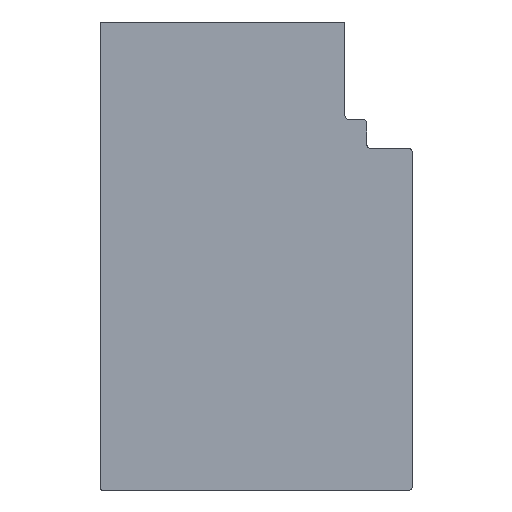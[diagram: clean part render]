
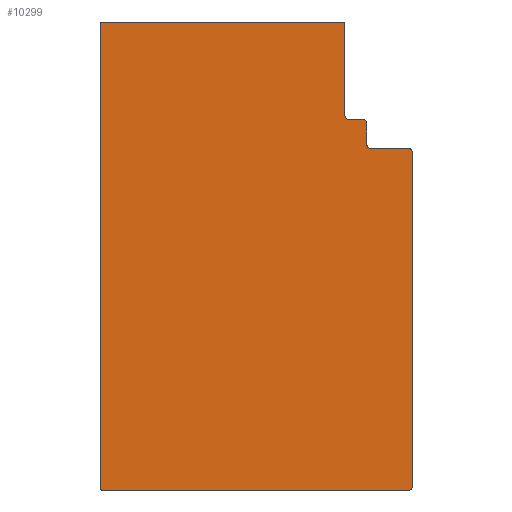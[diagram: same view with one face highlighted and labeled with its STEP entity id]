
A CAD part, front view. The second image highlights one B-rep face of the part: STEP entity #10299.
In plain terms, the highlighted planar face has unit normal (0, -1, 0).
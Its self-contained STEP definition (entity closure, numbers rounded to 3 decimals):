
#90 = DIRECTION ( 'NONE',  ( 0., 0., -1. ) ) ;
#93 = ORIENTED_EDGE ( 'NONE', *, *, #938, .F. ) ;
#104 = ORIENTED_EDGE ( 'NONE', *, *, #9955, .F. ) ;
#287 = VERTEX_POINT ( 'NONE', #2636 ) ;
#438 = DIRECTION ( 'NONE',  ( 0., -1., 0. ) ) ;
#526 = VECTOR ( 'NONE', #1134, 1000. ) ;
#554 = DIRECTION ( 'NONE',  ( 0., -1., 0. ) ) ;
#644 = VERTEX_POINT ( 'NONE', #746 ) ;
#692 = CARTESIAN_POINT ( 'NONE',  ( 53.167, -3.5, 49.423 ) ) ;
#737 = CIRCLE ( 'NONE', #1744, 1. ) ;
#746 = CARTESIAN_POINT ( 'NONE',  ( 43., -3.5, 63.087 ) ) ;
#767 = EDGE_CURVE ( 'NONE', #8657, #2614, #5714, .T. ) ;
#768 = DIRECTION ( 'NONE',  ( 0., 0., -1. ) ) ;
#797 = LINE ( 'NONE', #3264, #8101 ) ;
#823 = EDGE_CURVE ( 'NONE', #7993, #8935, #4935, .T. ) ;
#938 = EDGE_CURVE ( 'NONE', #287, #7298, #10215, .T. ) ;
#954 = CIRCLE ( 'NONE', #2129, 2. ) ;
#1026 = EDGE_CURVE ( 'NONE', #5285, #9031, #4558, .T. ) ;
#1043 = DIRECTION ( 'NONE',  ( 0., 0., 1. ) ) ;
#1057 = EDGE_CURVE ( 'NONE', #644, #1333, #2765, .T. ) ;
#1088 = VERTEX_POINT ( 'NONE', #2708 ) ;
#1096 = PLANE ( 'NONE',  #2922 ) ;
#1134 = DIRECTION ( 'NONE',  ( 1., 0., 0. ) ) ;
#1148 = DIRECTION ( 'NONE',  ( 0., 1., 0. ) ) ;
#1196 = VECTOR ( 'NONE', #7233, 1000. ) ;
#1229 = ORIENTED_EDGE ( 'NONE', *, *, #6100, .F. ) ;
#1327 = EDGE_CURVE ( 'NONE', #2283, #287, #1399, .T. ) ;
#1333 = VERTEX_POINT ( 'NONE', #8776 ) ;
#1349 = EDGE_CURVE ( 'NONE', #9031, #644, #954, .T. ) ;
#1399 = LINE ( 'NONE', #4592, #6475 ) ;
#1447 = ORIENTED_EDGE ( 'NONE', *, *, #823, .F. ) ;
#1515 = ORIENTED_EDGE ( 'NONE', *, *, #1057, .F. ) ;
#1620 = CARTESIAN_POINT ( 'NONE',  ( 72., -3.5, 48.423 ) ) ;
#1740 = DIRECTION ( 'NONE',  ( 0., -1., 0. ) ) ;
#1744 = AXIS2_PLACEMENT_3D ( 'NONE', #6092, #2794, #10057 ) ;
#1889 = DIRECTION ( 'NONE',  ( 0., 0., -1. ) ) ;
#1971 = CIRCLE ( 'NONE', #6989, 1. ) ;
#2028 = AXIS2_PLACEMENT_3D ( 'NONE', #4096, #1740, #5612 ) ;
#2129 = AXIS2_PLACEMENT_3D ( 'NONE', #4114, #9702, #90 ) ;
#2283 = VERTEX_POINT ( 'NONE', #3775 ) ;
#2421 = CIRCLE ( 'NONE', #5767, 1. ) ;
#2448 = LINE ( 'NONE', #7944, #6516 ) ;
#2564 = EDGE_LOOP ( 'NONE', ( #104, #6297, #9178, #93, #5403, #1229, #1515, #3433, #5072, #6779, #1447, #7444, #2821, #7644, #9975, #6089 ) ) ;
#2614 = VERTEX_POINT ( 'NONE', #10234 ) ;
#2636 = CARTESIAN_POINT ( 'NONE',  ( 51.167, -3.5, 51.423 ) ) ;
#2639 = CIRCLE ( 'NONE', #8822, 2. ) ;
#2705 = DIRECTION ( 'NONE',  ( 0., 0., 1. ) ) ;
#2708 = CARTESIAN_POINT ( 'NONE',  ( -71., -3.5, -108. ) ) ;
#2759 = EDGE_CURVE ( 'NONE', #3229, #5741, #2448, .T. ) ;
#2765 = LINE ( 'NONE', #9864, #526 ) ;
#2777 = DIRECTION ( 'NONE',  ( 0., -1., 0. ) ) ;
#2792 = CARTESIAN_POINT ( 'NONE',  ( 71., -3.5, 48.423 ) ) ;
#2794 = DIRECTION ( 'NONE',  ( 0., -1., 0. ) ) ;
#2821 = ORIENTED_EDGE ( 'NONE', *, *, #2759, .T. ) ;
#2922 = AXIS2_PLACEMENT_3D ( 'NONE', #4183, #1148, #6745 ) ;
#3037 = VERTEX_POINT ( 'NONE', #6306 ) ;
#3229 = VERTEX_POINT ( 'NONE', #4250 ) ;
#3264 = CARTESIAN_POINT ( 'NONE',  ( 53.167, -3.5, 49.423 ) ) ;
#3392 = FACE_OUTER_BOUND ( 'NONE', #2564, .T. ) ;
#3433 = ORIENTED_EDGE ( 'NONE', *, *, #1349, .F. ) ;
#3561 = DIRECTION ( 'NONE',  ( 0., -1., 0. ) ) ;
#3733 = DIRECTION ( 'NONE',  ( 0., 1., 0. ) ) ;
#3764 = EDGE_CURVE ( 'NONE', #7993, #3229, #5360, .T. ) ;
#3775 = CARTESIAN_POINT ( 'NONE',  ( 51.167, -3.5, 61.087 ) ) ;
#3866 = AXIS2_PLACEMENT_3D ( 'NONE', #9833, #3561, #8995 ) ;
#4070 = VERTEX_POINT ( 'NONE', #1620 ) ;
#4096 = CARTESIAN_POINT ( 'NONE',  ( 71., -3.5, -107. ) ) ;
#4114 = CARTESIAN_POINT ( 'NONE',  ( 43., -3.5, 65.087 ) ) ;
#4183 = CARTESIAN_POINT ( 'NONE',  ( -72., -3.5, 108. ) ) ;
#4250 = CARTESIAN_POINT ( 'NONE',  ( -72., -3.5, 107. ) ) ;
#4314 = VECTOR ( 'NONE', #7662, 1000. ) ;
#4522 = CARTESIAN_POINT ( 'NONE',  ( 49.167, -3.5, 61.087 ) ) ;
#4540 = VECTOR ( 'NONE', #7750, 1000. ) ;
#4558 = LINE ( 'NONE', #7020, #4540 ) ;
#4586 = VECTOR ( 'NONE', #1889, 1000. ) ;
#4592 = CARTESIAN_POINT ( 'NONE',  ( 51.167, -3.5, 61.087 ) ) ;
#4842 = CARTESIAN_POINT ( 'NONE',  ( -72., -3.5, -107. ) ) ;
#4935 = LINE ( 'NONE', #8122, #1196 ) ;
#5026 = CARTESIAN_POINT ( 'NONE',  ( -71., -3.5, 108. ) ) ;
#5027 = AXIS2_PLACEMENT_3D ( 'NONE', #8211, #2777, #1043 ) ;
#5034 = LINE ( 'NONE', #9046, #4586 ) ;
#5072 = ORIENTED_EDGE ( 'NONE', *, *, #1026, .F. ) ;
#5185 = EDGE_CURVE ( 'NONE', #5285, #8935, #2421, .T. ) ;
#5278 = CARTESIAN_POINT ( 'NONE',  ( 41., -3.5, 65.087 ) ) ;
#5285 = VERTEX_POINT ( 'NONE', #7520 ) ;
#5360 = CIRCLE ( 'NONE', #5027, 1. ) ;
#5403 = ORIENTED_EDGE ( 'NONE', *, *, #1327, .F. ) ;
#5612 = DIRECTION ( 'NONE',  ( 0., 0., 1. ) ) ;
#5615 = DIRECTION ( 'NONE',  ( 1., 0., 0. ) ) ;
#5639 = EDGE_CURVE ( 'NONE', #1088, #8657, #10008, .T. ) ;
#5714 = CIRCLE ( 'NONE', #2028, 1. ) ;
#5741 = VERTEX_POINT ( 'NONE', #4842 ) ;
#5767 = AXIS2_PLACEMENT_3D ( 'NONE', #10024, #554, #2705 ) ;
#5826 = EDGE_CURVE ( 'NONE', #4070, #3037, #1971, .T. ) ;
#5884 = CARTESIAN_POINT ( 'NONE',  ( -72., -3.5, -108. ) ) ;
#6089 = ORIENTED_EDGE ( 'NONE', *, *, #767, .T. ) ;
#6092 = CARTESIAN_POINT ( 'NONE',  ( -71., -3.5, -107. ) ) ;
#6100 = EDGE_CURVE ( 'NONE', #1333, #2283, #2639, .T. ) ;
#6180 = CARTESIAN_POINT ( 'NONE',  ( 40., -3.5, 108. ) ) ;
#6297 = ORIENTED_EDGE ( 'NONE', *, *, #5826, .T. ) ;
#6306 = CARTESIAN_POINT ( 'NONE',  ( 71., -3.5, 49.423 ) ) ;
#6475 = VECTOR ( 'NONE', #7783, 1000. ) ;
#6516 = VECTOR ( 'NONE', #768, 1000. ) ;
#6745 = DIRECTION ( 'NONE',  ( 0., 0., 1. ) ) ;
#6779 = ORIENTED_EDGE ( 'NONE', *, *, #5185, .T. ) ;
#6930 = DIRECTION ( 'NONE',  ( 0., 0., 1. ) ) ;
#6989 = AXIS2_PLACEMENT_3D ( 'NONE', #2792, #438, #8440 ) ;
#7020 = CARTESIAN_POINT ( 'NONE',  ( 41., -3.5, 108. ) ) ;
#7093 = EDGE_CURVE ( 'NONE', #5741, #1088, #737, .T. ) ;
#7233 = DIRECTION ( 'NONE',  ( 1., 0., 0. ) ) ;
#7298 = VERTEX_POINT ( 'NONE', #692 ) ;
#7377 = EDGE_CURVE ( 'NONE', #7298, #3037, #797, .T. ) ;
#7444 = ORIENTED_EDGE ( 'NONE', *, *, #3764, .T. ) ;
#7520 = CARTESIAN_POINT ( 'NONE',  ( 41., -3.5, 107. ) ) ;
#7644 = ORIENTED_EDGE ( 'NONE', *, *, #7093, .T. ) ;
#7662 = DIRECTION ( 'NONE',  ( 1., 0., 0. ) ) ;
#7750 = DIRECTION ( 'NONE',  ( 0., 0., -1. ) ) ;
#7783 = DIRECTION ( 'NONE',  ( 0., 0., -1. ) ) ;
#7944 = CARTESIAN_POINT ( 'NONE',  ( -72., -3.5, 108. ) ) ;
#7993 = VERTEX_POINT ( 'NONE', #5026 ) ;
#8101 = VECTOR ( 'NONE', #5615, 1000. ) ;
#8122 = CARTESIAN_POINT ( 'NONE',  ( -72., -3.5, 108. ) ) ;
#8211 = CARTESIAN_POINT ( 'NONE',  ( -71., -3.5, 107. ) ) ;
#8440 = DIRECTION ( 'NONE',  ( 0., 0., 1. ) ) ;
#8657 = VERTEX_POINT ( 'NONE', #9500 ) ;
#8776 = CARTESIAN_POINT ( 'NONE',  ( 49.167, -3.5, 63.087 ) ) ;
#8822 = AXIS2_PLACEMENT_3D ( 'NONE', #4522, #3733, #6930 ) ;
#8935 = VERTEX_POINT ( 'NONE', #6180 ) ;
#8995 = DIRECTION ( 'NONE',  ( 0., 0., -1. ) ) ;
#9031 = VERTEX_POINT ( 'NONE', #5278 ) ;
#9046 = CARTESIAN_POINT ( 'NONE',  ( 72., -3.5, 108. ) ) ;
#9178 = ORIENTED_EDGE ( 'NONE', *, *, #7377, .F. ) ;
#9500 = CARTESIAN_POINT ( 'NONE',  ( 71., -3.5, -108. ) ) ;
#9702 = DIRECTION ( 'NONE',  ( 0., -1., 0. ) ) ;
#9833 = CARTESIAN_POINT ( 'NONE',  ( 53.167, -3.5, 51.423 ) ) ;
#9864 = CARTESIAN_POINT ( 'NONE',  ( 43., -3.5, 63.087 ) ) ;
#9955 = EDGE_CURVE ( 'NONE', #4070, #2614, #5034, .T. ) ;
#9975 = ORIENTED_EDGE ( 'NONE', *, *, #5639, .T. ) ;
#10008 = LINE ( 'NONE', #5884, #4314 ) ;
#10024 = CARTESIAN_POINT ( 'NONE',  ( 40., -3.5, 107. ) ) ;
#10057 = DIRECTION ( 'NONE',  ( 0., 0., 1. ) ) ;
#10215 = CIRCLE ( 'NONE', #3866, 2. ) ;
#10234 = CARTESIAN_POINT ( 'NONE',  ( 72., -3.5, -107. ) ) ;
#10299 = ADVANCED_FACE ( 'NONE', ( #3392 ), #1096, .F. ) ;
